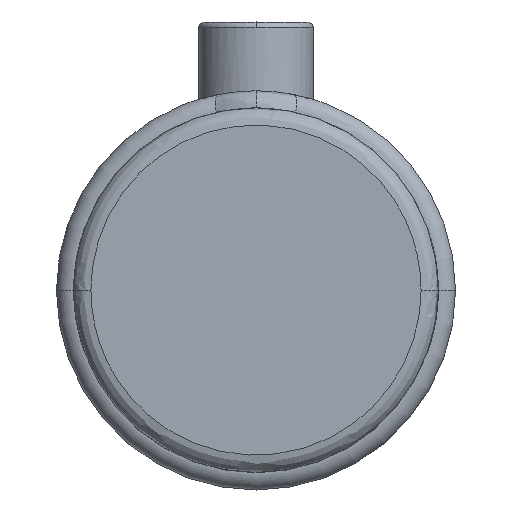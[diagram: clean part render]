
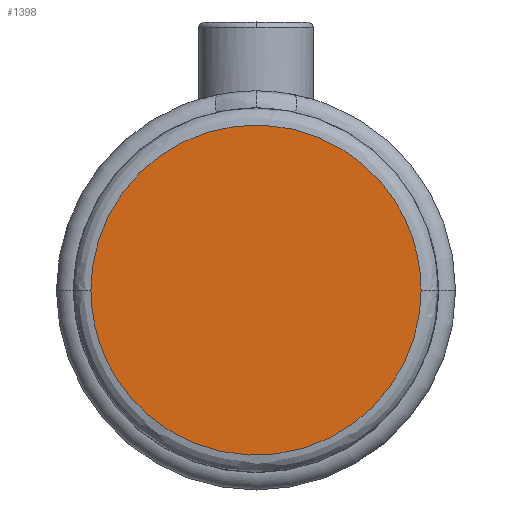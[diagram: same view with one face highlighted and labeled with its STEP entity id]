
A CAD part, top view. The second image highlights one B-rep face of the part: STEP entity #1398.
In plain terms, the highlighted planar face has unit normal (0, 0, 1).
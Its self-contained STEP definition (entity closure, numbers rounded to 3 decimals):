
#695 =( BOUNDED_CURVE ( )  B_SPLINE_CURVE ( 3, ( #1684, #912, #2376, #7469 ),
 .UNSPECIFIED., .F., .T. ) 
 B_SPLINE_CURVE_WITH_KNOTS ( ( 4, 4 ),
 ( 0.75, 1.25 ),
 .UNSPECIFIED. ) 
 CURVE ( )  GEOMETRIC_REPRESENTATION_ITEM ( )  RATIONAL_B_SPLINE_CURVE ( ( 1., 0.333, 0.333, 1. ) ) 
 REPRESENTATION_ITEM ( '' )  );
#912 = CARTESIAN_POINT ( 'NONE',  ( -28.75, 57.5, 38. ) ) ;
#1039 = CARTESIAN_POINT ( 'NONE',  ( -28.75, 0., 38. ) ) ;
#1221 =( BOUNDED_CURVE ( )  B_SPLINE_CURVE ( 3, ( #3668, #3777, #2919, #4392 ),
 .UNSPECIFIED., .F., .T. ) 
 B_SPLINE_CURVE_WITH_KNOTS ( ( 4, 4 ),
 ( 0.25, 0.75 ),
 .UNSPECIFIED. ) 
 CURVE ( )  GEOMETRIC_REPRESENTATION_ITEM ( )  RATIONAL_B_SPLINE_CURVE ( ( 1., 0.333, 0.333, 1. ) ) 
 REPRESENTATION_ITEM ( '' )  );
#1380 = ORIENTED_EDGE ( 'NONE', *, *, #1710, .F. ) ;
#1398 = ADVANCED_FACE ( 'NONE', ( #5672 ), #3482, .T. ) ;
#1684 = CARTESIAN_POINT ( 'NONE',  ( -28.75, 0., 38. ) ) ;
#1710 = EDGE_CURVE ( 'NONE', #7248, #5136, #1221, .T. ) ;
#2376 = CARTESIAN_POINT ( 'NONE',  ( 28.75, 57.5, 38. ) ) ;
#2643 = DIRECTION ( 'NONE',  ( 0., -1., 0. ) ) ;
#2919 = CARTESIAN_POINT ( 'NONE',  ( -28.75, -57.5, 38. ) ) ;
#3482 = PLANE ( 'NONE',  #5540 ) ;
#3668 = CARTESIAN_POINT ( 'NONE',  ( 28.75, 0., 38. ) ) ;
#3744 = ORIENTED_EDGE ( 'NONE', *, *, #4929, .F. ) ;
#3777 = CARTESIAN_POINT ( 'NONE',  ( 28.75, -57.5, 38. ) ) ;
#4392 = CARTESIAN_POINT ( 'NONE',  ( -28.75, 0., 38. ) ) ;
#4833 = DIRECTION ( 'NONE',  ( 0., 0., 1. ) ) ;
#4929 = EDGE_CURVE ( 'NONE', #5136, #7248, #695, .T. ) ;
#5136 = VERTEX_POINT ( 'NONE', #1039 ) ;
#5540 = AXIS2_PLACEMENT_3D ( 'NONE', #6979, #4833, #2643 ) ;
#5672 = FACE_OUTER_BOUND ( 'NONE', #7911, .T. ) ;
#6979 = CARTESIAN_POINT ( 'NONE',  ( 0., 15.875, 38. ) ) ;
#7248 = VERTEX_POINT ( 'NONE', #8899 ) ;
#7469 = CARTESIAN_POINT ( 'NONE',  ( 28.75, 0., 38. ) ) ;
#7911 = EDGE_LOOP ( 'NONE', ( #1380, #3744 ) ) ;
#8899 = CARTESIAN_POINT ( 'NONE',  ( 28.75, 0., 38. ) ) ;
